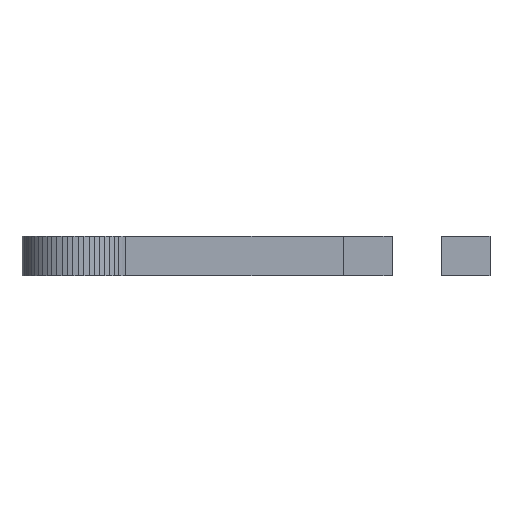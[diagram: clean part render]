
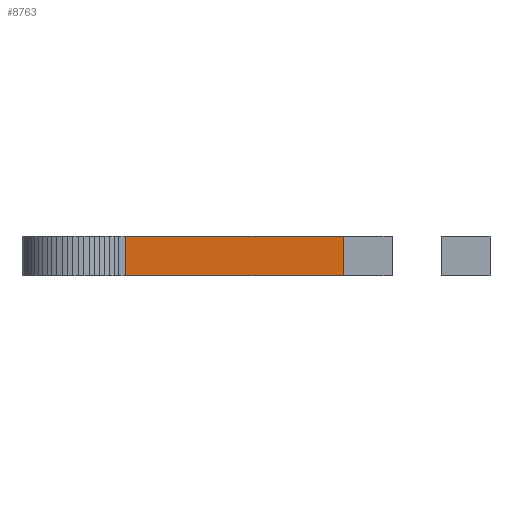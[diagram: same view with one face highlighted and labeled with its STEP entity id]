
A CAD part, top view. The second image highlights one B-rep face of the part: STEP entity #8763.
In plain terms, the highlighted planar face has unit normal (0, 0, 1).
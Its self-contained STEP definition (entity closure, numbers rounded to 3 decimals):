
#94 = PLANE('',#95);
#95 = AXIS2_PLACEMENT_3D('',#96,#97,#98);
#96 = CARTESIAN_POINT('',(65.854,36.,0.213));
#97 = DIRECTION('',(0.,1.,0.));
#98 = DIRECTION('',(0.,-0.,1.));
#148 = PLANE('',#149);
#149 = AXIS2_PLACEMENT_3D('',#150,#151,#152);
#150 = CARTESIAN_POINT('',(65.854,50.,0.213));
#151 = DIRECTION('',(0.,1.,0.));
#152 = DIRECTION('',(0.,-0.,1.));
#1681 = VERTEX_POINT('',#1682);
#1682 = CARTESIAN_POINT('',(16.696,50.,11.));
#1696 = PLANE('',#1697);
#1697 = AXIS2_PLACEMENT_3D('',#1698,#1699,#1700);
#1698 = CARTESIAN_POINT('',(16.629,50.,11.111));
#1699 = DIRECTION('',(0.858,0.,0.514));
#1700 = DIRECTION('',(0.514,0.,-0.858));
#1708 = EDGE_CURVE('',#1681,#1709,#1711,.T.);
#1709 = VERTEX_POINT('',#1710);
#1710 = CARTESIAN_POINT('',(94.,50.,11.));
#1711 = SURFACE_CURVE('',#1712,(#1716,#1723),.PCURVE_S1.);
#1712 = LINE('',#1713,#1714);
#1713 = CARTESIAN_POINT('',(16.696,50.,11.));
#1714 = VECTOR('',#1715,1.);
#1715 = DIRECTION('',(1.,0.,0.));
#1716 = PCURVE('',#148,#1717);
#1717 = DEFINITIONAL_REPRESENTATION('',(#1718),#1722);
#1718 = LINE('',#1719,#1720);
#1719 = CARTESIAN_POINT('',(10.787,-49.158));
#1720 = VECTOR('',#1721,1.);
#1721 = DIRECTION('',(0.,1.));
#1722 = ( GEOMETRIC_REPRESENTATION_CONTEXT(2) 
PARAMETRIC_REPRESENTATION_CONTEXT() REPRESENTATION_CONTEXT('2D SPACE',''
  ) );
#1723 = PCURVE('',#1724,#1729);
#1724 = PLANE('',#1725);
#1725 = AXIS2_PLACEMENT_3D('',#1726,#1727,#1728);
#1726 = CARTESIAN_POINT('',(16.696,50.,11.));
#1727 = DIRECTION('',(-0.,0.,1.));
#1728 = DIRECTION('',(1.,0.,0.));
#1729 = DEFINITIONAL_REPRESENTATION('',(#1730),#1734);
#1730 = LINE('',#1731,#1732);
#1731 = CARTESIAN_POINT('',(0.,0.));
#1732 = VECTOR('',#1733,1.);
#1733 = DIRECTION('',(1.,0.));
#1734 = ( GEOMETRIC_REPRESENTATION_CONTEXT(2) 
PARAMETRIC_REPRESENTATION_CONTEXT() REPRESENTATION_CONTEXT('2D SPACE',''
  ) );
#1752 = PLANE('',#1753);
#1753 = AXIS2_PLACEMENT_3D('',#1754,#1755,#1756);
#1754 = CARTESIAN_POINT('',(94.,50.,11.));
#1755 = DIRECTION('',(-1.,0.,0.));
#1756 = DIRECTION('',(0.,0.,1.));
#6608 = VERTEX_POINT('',#6609);
#6609 = CARTESIAN_POINT('',(16.696,36.,11.));
#6630 = EDGE_CURVE('',#6608,#6631,#6633,.T.);
#6631 = VERTEX_POINT('',#6632);
#6632 = CARTESIAN_POINT('',(94.,36.,11.));
#6633 = SURFACE_CURVE('',#6634,(#6638,#6645),.PCURVE_S1.);
#6634 = LINE('',#6635,#6636);
#6635 = CARTESIAN_POINT('',(16.696,36.,11.));
#6636 = VECTOR('',#6637,1.);
#6637 = DIRECTION('',(1.,0.,0.));
#6638 = PCURVE('',#94,#6639);
#6639 = DEFINITIONAL_REPRESENTATION('',(#6640),#6644);
#6640 = LINE('',#6641,#6642);
#6641 = CARTESIAN_POINT('',(10.787,-49.158));
#6642 = VECTOR('',#6643,1.);
#6643 = DIRECTION('',(0.,1.));
#6644 = ( GEOMETRIC_REPRESENTATION_CONTEXT(2) 
PARAMETRIC_REPRESENTATION_CONTEXT() REPRESENTATION_CONTEXT('2D SPACE',''
  ) );
#6645 = PCURVE('',#1724,#6646);
#6646 = DEFINITIONAL_REPRESENTATION('',(#6647),#6651);
#6647 = LINE('',#6648,#6649);
#6648 = CARTESIAN_POINT('',(0.,-14.));
#6649 = VECTOR('',#6650,1.);
#6650 = DIRECTION('',(1.,0.));
#6651 = ( GEOMETRIC_REPRESENTATION_CONTEXT(2) 
PARAMETRIC_REPRESENTATION_CONTEXT() REPRESENTATION_CONTEXT('2D SPACE',''
  ) );
#8740 = EDGE_CURVE('',#1709,#6631,#8741,.T.);
#8741 = SURFACE_CURVE('',#8742,(#8746,#8753),.PCURVE_S1.);
#8742 = LINE('',#8743,#8744);
#8743 = CARTESIAN_POINT('',(94.,50.,11.));
#8744 = VECTOR('',#8745,1.);
#8745 = DIRECTION('',(0.,-1.,0.));
#8746 = PCURVE('',#1752,#8747);
#8747 = DEFINITIONAL_REPRESENTATION('',(#8748),#8752);
#8748 = LINE('',#8749,#8750);
#8749 = CARTESIAN_POINT('',(0.,0.));
#8750 = VECTOR('',#8751,1.);
#8751 = DIRECTION('',(0.,-1.));
#8752 = ( GEOMETRIC_REPRESENTATION_CONTEXT(2) 
PARAMETRIC_REPRESENTATION_CONTEXT() REPRESENTATION_CONTEXT('2D SPACE',''
  ) );
#8753 = PCURVE('',#1724,#8754);
#8754 = DEFINITIONAL_REPRESENTATION('',(#8755),#8759);
#8755 = LINE('',#8756,#8757);
#8756 = CARTESIAN_POINT('',(77.304,0.));
#8757 = VECTOR('',#8758,1.);
#8758 = DIRECTION('',(0.,-1.));
#8759 = ( GEOMETRIC_REPRESENTATION_CONTEXT(2) 
PARAMETRIC_REPRESENTATION_CONTEXT() REPRESENTATION_CONTEXT('2D SPACE',''
  ) );
#8763 = ADVANCED_FACE('',(#8764),#1724,.T.);
#8764 = FACE_BOUND('',#8765,.T.);
#8765 = EDGE_LOOP('',(#8766,#8787,#8788,#8789));
#8766 = ORIENTED_EDGE('',*,*,#8767,.T.);
#8767 = EDGE_CURVE('',#1681,#6608,#8768,.T.);
#8768 = SURFACE_CURVE('',#8769,(#8773,#8780),.PCURVE_S1.);
#8769 = LINE('',#8770,#8771);
#8770 = CARTESIAN_POINT('',(16.696,50.,11.));
#8771 = VECTOR('',#8772,1.);
#8772 = DIRECTION('',(0.,-1.,0.));
#8773 = PCURVE('',#1724,#8774);
#8774 = DEFINITIONAL_REPRESENTATION('',(#8775),#8779);
#8775 = LINE('',#8776,#8777);
#8776 = CARTESIAN_POINT('',(0.,0.));
#8777 = VECTOR('',#8778,1.);
#8778 = DIRECTION('',(0.,-1.));
#8779 = ( GEOMETRIC_REPRESENTATION_CONTEXT(2) 
PARAMETRIC_REPRESENTATION_CONTEXT() REPRESENTATION_CONTEXT('2D SPACE',''
  ) );
#8780 = PCURVE('',#1696,#8781);
#8781 = DEFINITIONAL_REPRESENTATION('',(#8782),#8786);
#8782 = LINE('',#8783,#8784);
#8783 = CARTESIAN_POINT('',(0.13,0.));
#8784 = VECTOR('',#8785,1.);
#8785 = DIRECTION('',(0.,-1.));
#8786 = ( GEOMETRIC_REPRESENTATION_CONTEXT(2) 
PARAMETRIC_REPRESENTATION_CONTEXT() REPRESENTATION_CONTEXT('2D SPACE',''
  ) );
#8787 = ORIENTED_EDGE('',*,*,#6630,.T.);
#8788 = ORIENTED_EDGE('',*,*,#8740,.F.);
#8789 = ORIENTED_EDGE('',*,*,#1708,.F.);
